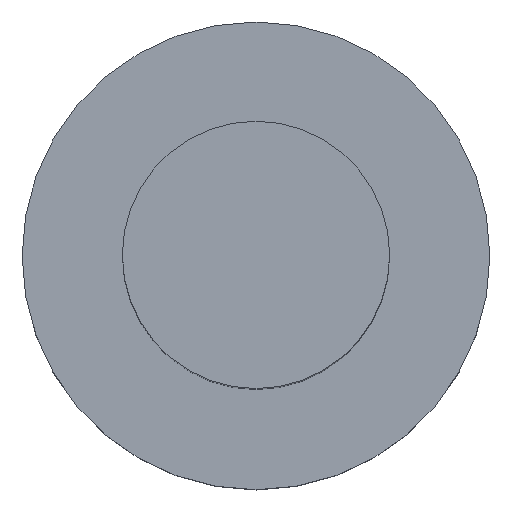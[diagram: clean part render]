
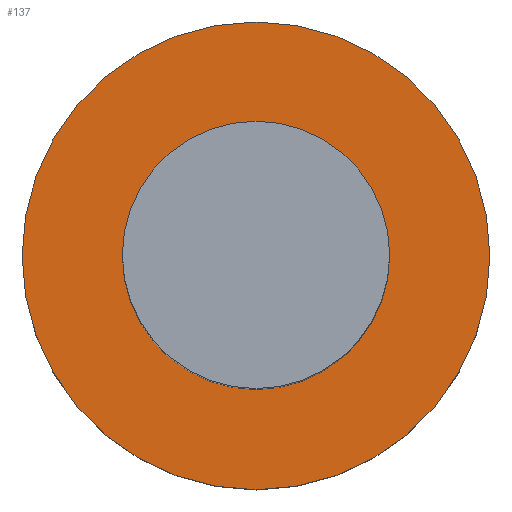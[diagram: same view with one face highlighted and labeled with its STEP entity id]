
A CAD part, top view. The second image highlights one B-rep face of the part: STEP entity #137.
In plain terms, the highlighted planar face has unit normal (0, 0, 1).
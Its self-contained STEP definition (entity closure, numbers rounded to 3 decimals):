
#117 = VERTEX_POINT('',#118);
#118 = CARTESIAN_POINT('',(0.889,0.,0.));
#126 = EDGE_CURVE('',#117,#117,#127,.T.);
#127 = CIRCLE('',#128,0.889);
#128 = AXIS2_PLACEMENT_3D('',#129,#130,#131);
#129 = CARTESIAN_POINT('',(0.,0.,0.));
#130 = DIRECTION('',(0.,0.,-1.));
#131 = DIRECTION('',(1.,0.,0.));
#137 = ADVANCED_FACE('',(#138,#141),#152,.T.);
#138 = FACE_BOUND('',#139,.T.);
#139 = EDGE_LOOP('',(#140));
#140 = ORIENTED_EDGE('',*,*,#126,.F.);
#141 = FACE_BOUND('',#142,.T.);
#142 = EDGE_LOOP('',(#143));
#143 = ORIENTED_EDGE('',*,*,#144,.F.);
#144 = EDGE_CURVE('',#145,#145,#147,.T.);
#145 = VERTEX_POINT('',#146);
#146 = CARTESIAN_POINT('',(0.508,0.,0.));
#147 = CIRCLE('',#148,0.508);
#148 = AXIS2_PLACEMENT_3D('',#149,#150,#151);
#149 = CARTESIAN_POINT('',(0.,0.,0.));
#150 = DIRECTION('',(0.,0.,1.));
#151 = DIRECTION('',(1.,0.,0.));
#152 = PLANE('',#153);
#153 = AXIS2_PLACEMENT_3D('',#154,#155,#156);
#154 = CARTESIAN_POINT('',(0.,0.,0.));
#155 = DIRECTION('',(0.,0.,1.));
#156 = DIRECTION('',(1.,0.,0.));
